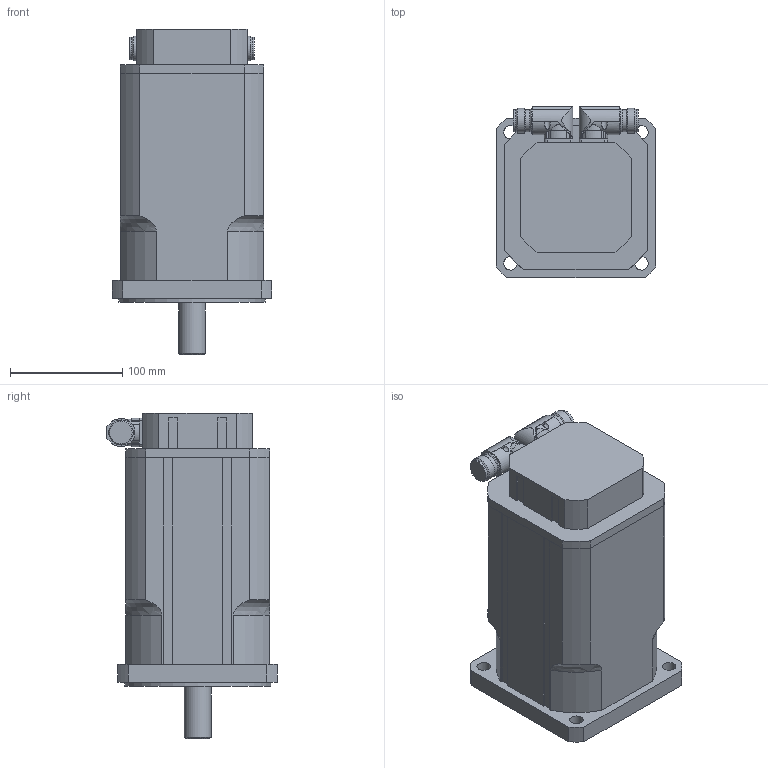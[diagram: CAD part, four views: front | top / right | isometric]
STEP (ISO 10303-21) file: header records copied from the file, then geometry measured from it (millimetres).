
FILE_DESCRIPTION(/* description */ ('Alibre Inc.'),/* implementation_level */ '2;1');
FILE_NAME(/* name */ 'export0',/* time_stamp */ '2011-08-10T15:09:10+02:00',/* author */ (''),/* organization */ (''),/* preprocessor_version */ 'ST-DEVELOPER v12',/* originating_system */ 'Alibre',/* authorisation */ '');
FILE_SCHEMA (('AUTOMOTIVE_DESIGN'));
Length unit declared in the file: millimetre
Products named in the file (4): ID_1
Bounding box: 142 x 152 x 289.5 mm (x, y, z)
Volume: 3682828.3 mm3; surface area: 209963.7 mm2
Topology: 4 solids, 4 shells, 232 faces, 633 edges, 420 vertices
Faces by surface type: cylinder 111, plane 101, bspline 9, cone 7, torus 4
Full cylindrical faces by diameter (mm): 2.7 x8, 20 x8, 22 x4, 24 x1, 52 x1, 130 x1
Entity records: 5810 total; most frequent: CARTESIAN_POINT 1695, ORIENTED_EDGE 828, DIRECTION 783, EDGE_CURVE 414, AXIS2_PLACEMENT_3D 316, VERTEX_POINT 290, VECTOR 231, LINE 231
